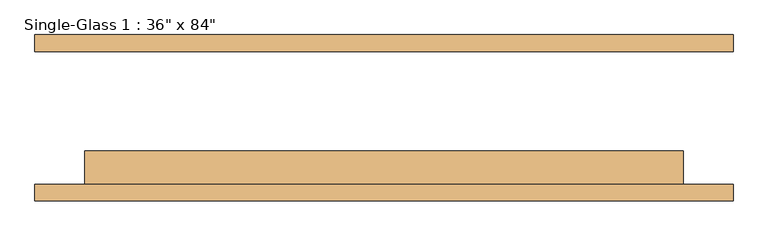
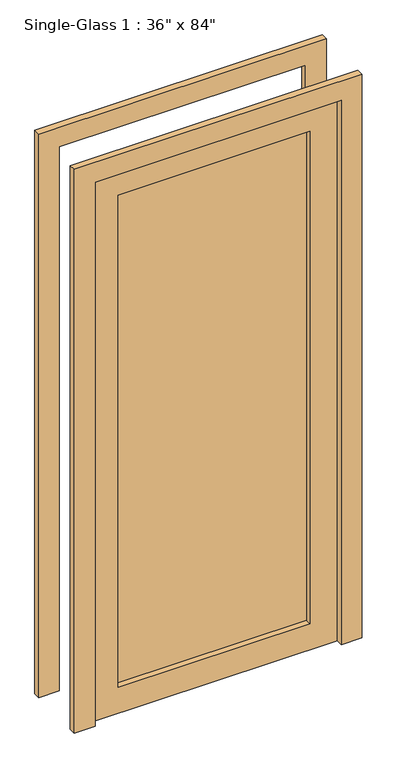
"""IFC4 building model written with IfcOpenShell, lengths in millimetres: door geometry."""

from ifc_helpers import new_model, si_unit, frame, origin, place, context, project, spatial, polyline, outline, extrude, source, transform, mapped, element, save


def door_505a9a4a(model_context):
    return source(origin(), model_context, "Body", "SweptSolid", [
        extrude(outline(polyline([(2133.6, 457.2), (0.0, 457.2), (0.0, 533.4), (2209.8, 533.4), (2209.8, -533.4), (0.0, -533.4), (0.0, -457.2), (2133.6, -457.2), (2133.6, 457.2)])), frame((0.0, 101.6, 0.0), z_axis=(0.0, 1.0, 0.0), x_axis=(0.0, 0.0, 1.0)), (0.0, 0.0, 1.0), 25.4),
        extrude(outline(polyline([(2133.6, 457.2), (0.0, 457.2), (0.0, 533.4), (2209.8, 533.4), (2209.8, -533.4), (0.0, -533.4), (0.0, -457.2), (2133.6, -457.2), (2133.6, 457.2)])), frame((0.0, -127.0, 0.0), z_axis=(0.0, 1.0, 0.0), x_axis=(0.0, 0.0, 1.0)), (0.0, 0.0, 1.0), 25.4),
        extrude(outline(polyline([(355.6, -73.025), (355.6, -79.375), (-355.6, -79.375), (-355.6, -73.025), (355.6, -73.025)])), frame((0.0, 0.0, 101.6), z_axis=(0.0, 0.0, 1.0), x_axis=(1.0, 0.0, 0.0)), (0.0, 0.0, 1.0), 1930.4),
        extrude(outline(polyline([(2133.6, 457.2), (2133.6, -457.2), (0.0, -457.2), (0.0, 457.2), (2133.6, 457.2)]), holes=[polyline([(2032.0, -355.6), (2032.0, 355.6), (101.6, 355.6), (101.6, -355.6), (2032.0, -355.6)])]), frame((0.0, -101.6, 0.0), z_axis=(0.0, 1.0, 0.0), x_axis=(0.0, 0.0, 1.0)), (0.0, 0.0, 1.0), 50.8),
    ])


if __name__ == "__main__":
    model = new_model("IFC4")
    model_context = context("Model", 3, world=origin())
    ifc_project = project(units=[si_unit("LENGTHUNIT", "METRE", prefix="MILLI")], contexts=[model_context])
    site = spatial("IfcSite", under=ifc_project)
    building = spatial("IfcBuilding", under=site)
    placement = place(None, origin())
    door_shape = door_505a9a4a(model_context)
    element("IfcDoor", 1, ObjectType="Single-Glass 1 : 36\" x 84\"", at=placement, inside=building, context=model_context, shape_type="MappedRepresentation", body=[
        mapped(door_shape, transform((0.0, 0.0, 0.0), x_axis=(1.0, 0.0, 0.0), y_axis=(0.0, 1.0, 0.0), z_axis=(0.0, 0.0, 1.0))),
    ])
    save(model, "model.ifc")
